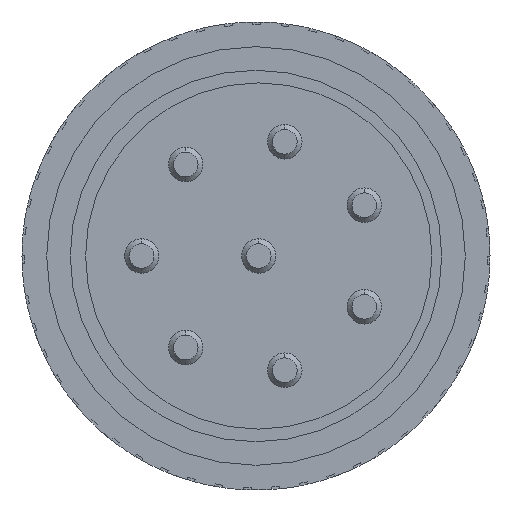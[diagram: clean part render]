
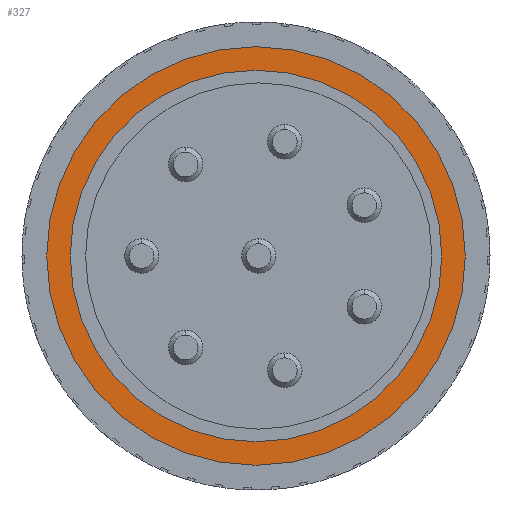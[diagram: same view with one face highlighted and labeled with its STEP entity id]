
A CAD part, left-side view. The second image highlights one B-rep face of the part: STEP entity #327.
In plain terms, the highlighted planar face has unit normal (-1, 0, 0).
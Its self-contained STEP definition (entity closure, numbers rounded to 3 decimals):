
#93 = DIRECTION ( 'NONE',  ( 0., -1., 0. ) ) ;
#327 = ADVANCED_FACE ( 'NONE', ( #4359, #7193 ), #793, .T. ) ;
#576 = AXIS2_PLACEMENT_3D ( 'NONE', #7529, #8284, #5430 ) ;
#743 = DIRECTION ( 'NONE',  ( 1., 0., 0. ) ) ;
#793 = PLANE ( 'NONE',  #2811 ) ;
#854 = EDGE_CURVE ( 'NONE', #7480, #2045, #6254, .T. ) ;
#958 = CIRCLE ( 'NONE', #3663, 4.25 ) ;
#1208 = AXIS2_PLACEMENT_3D ( 'NONE', #2954, #743, #8608 ) ;
#1401 = DIRECTION ( 'NONE',  ( 0., 1., 0. ) ) ;
#1468 = EDGE_LOOP ( 'NONE', ( #8475, #6687 ) ) ;
#2045 = VERTEX_POINT ( 'NONE', #5716 ) ;
#2295 = AXIS2_PLACEMENT_3D ( 'NONE', #5771, #6378, #9227 ) ;
#2425 = EDGE_CURVE ( 'NONE', #2803, #2789, #7631, .T. ) ;
#2789 = VERTEX_POINT ( 'NONE', #8267 ) ;
#2803 = VERTEX_POINT ( 'NONE', #3221 ) ;
#2811 = AXIS2_PLACEMENT_3D ( 'NONE', #3662, #6502, #93 ) ;
#2954 = CARTESIAN_POINT ( 'NONE',  ( -37.064, 0.056, 0. ) ) ;
#3205 = ORIENTED_EDGE ( 'NONE', *, *, #5897, .F. ) ;
#3221 = CARTESIAN_POINT ( 'NONE',  ( -37.064, -4.195, 0. ) ) ;
#3662 = CARTESIAN_POINT ( 'NONE',  ( -37.064, 4.306, 0. ) ) ;
#3663 = AXIS2_PLACEMENT_3D ( 'NONE', #8568, #8426, #1401 ) ;
#4359 = FACE_BOUND ( 'NONE', #1468, .T. ) ;
#4548 = CIRCLE ( 'NONE', #2295, 3.773 ) ;
#5430 = DIRECTION ( 'NONE',  ( 0., 1., 0. ) ) ;
#5524 = EDGE_CURVE ( 'NONE', #2045, #7480, #4548, .T. ) ;
#5716 = CARTESIAN_POINT ( 'NONE',  ( -37.064, 3.829, 0. ) ) ;
#5771 = CARTESIAN_POINT ( 'NONE',  ( -37.064, 0.056, 0. ) ) ;
#5897 = EDGE_CURVE ( 'NONE', #2789, #2803, #958, .T. ) ;
#6110 = ORIENTED_EDGE ( 'NONE', *, *, #2425, .F. ) ;
#6254 = CIRCLE ( 'NONE', #576, 3.773 ) ;
#6378 = DIRECTION ( 'NONE',  ( 1., 0., 0. ) ) ;
#6502 = DIRECTION ( 'NONE',  ( -1., 0., 0. ) ) ;
#6687 = ORIENTED_EDGE ( 'NONE', *, *, #854, .T. ) ;
#7193 = FACE_OUTER_BOUND ( 'NONE', #7632, .T. ) ;
#7480 = VERTEX_POINT ( 'NONE', #7665 ) ;
#7529 = CARTESIAN_POINT ( 'NONE',  ( -37.064, 0.056, 0. ) ) ;
#7631 = CIRCLE ( 'NONE', #1208, 4.25 ) ;
#7632 = EDGE_LOOP ( 'NONE', ( #3205, #6110 ) ) ;
#7665 = CARTESIAN_POINT ( 'NONE',  ( -37.064, -3.718, 0. ) ) ;
#8267 = CARTESIAN_POINT ( 'NONE',  ( -37.064, 4.306, 0. ) ) ;
#8284 = DIRECTION ( 'NONE',  ( 1., 0., 0. ) ) ;
#8426 = DIRECTION ( 'NONE',  ( 1., 0., 0. ) ) ;
#8475 = ORIENTED_EDGE ( 'NONE', *, *, #5524, .T. ) ;
#8568 = CARTESIAN_POINT ( 'NONE',  ( -37.064, 0.056, 0. ) ) ;
#8608 = DIRECTION ( 'NONE',  ( 0., 1., 0. ) ) ;
#9227 = DIRECTION ( 'NONE',  ( 0., 1., 0. ) ) ;
